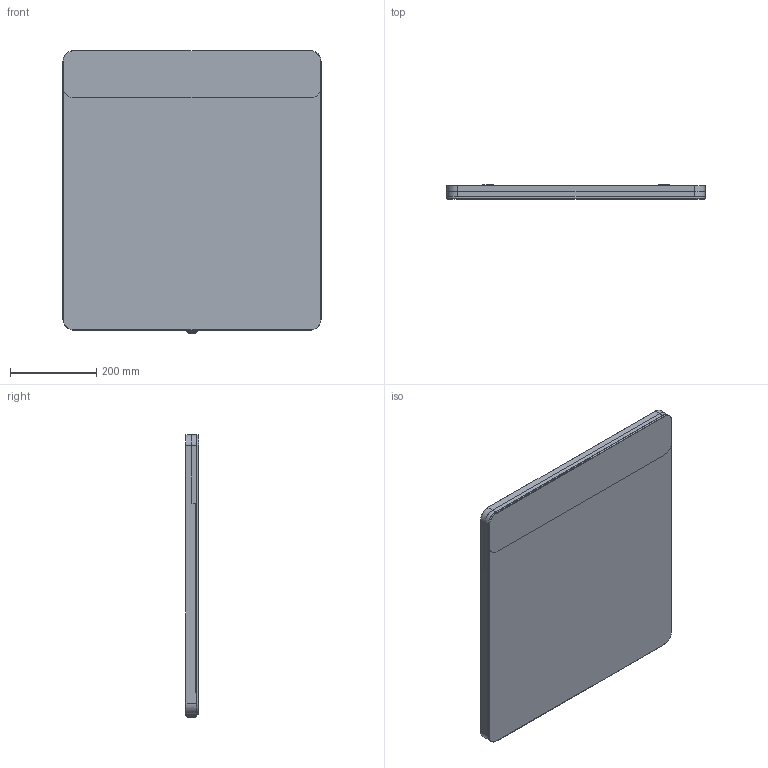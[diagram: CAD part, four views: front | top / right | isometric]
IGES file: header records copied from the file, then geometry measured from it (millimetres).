
Global section: file name: 819260000; native system: Autodesk Inventor 2018; preprocessor: unknown; date: 20200306.075902; units: millimetre
Bounding box: 600 x 32.01 x 657.5 mm (x, y, z)
Volume: 2279156.1 mm3; surface area: 1153534.1 mm2
Topology: 11 solids, 11 shells, 309 faces, 800 edges, 511 vertices
Faces by surface type: bspline 309
